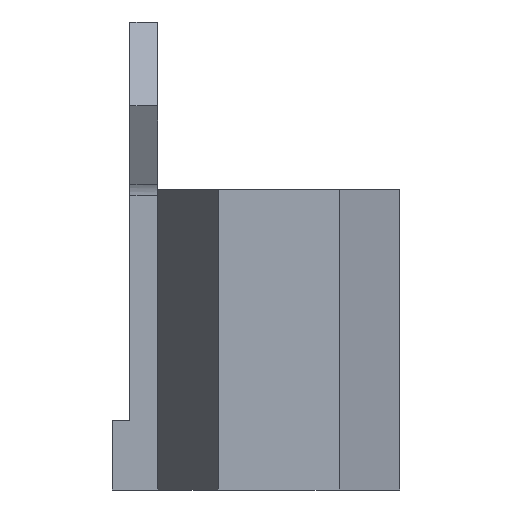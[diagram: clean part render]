
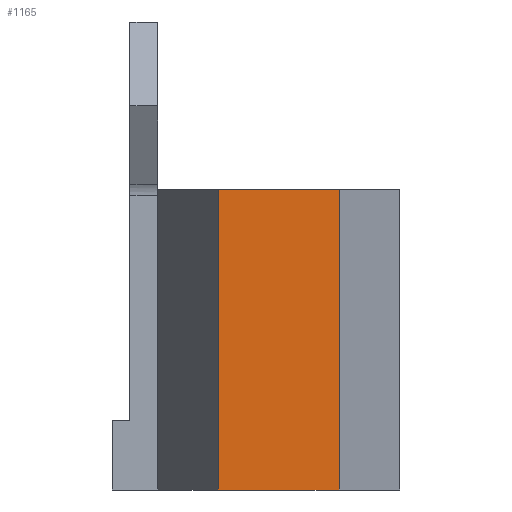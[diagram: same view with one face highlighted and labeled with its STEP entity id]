
A CAD part, left-side view. The second image highlights one B-rep face of the part: STEP entity #1165.
In plain terms, the highlighted planar face has unit normal (-1, 0, 0).
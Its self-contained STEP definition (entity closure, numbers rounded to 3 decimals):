
#91=FACE_OUTER_BOUND('',#160,.T.);
#160=EDGE_LOOP('',(#973,#974,#975,#976));
#218=LINE('',#1682,#363);
#283=LINE('',#1830,#428);
#303=LINE('',#1869,#448);
#304=LINE('',#1871,#449);
#363=VECTOR('',#1359,10.);
#428=VECTOR('',#1462,10.);
#448=VECTOR('',#1520,10.);
#449=VECTOR('',#1523,10.);
#509=VERTEX_POINT('',#1679);
#510=VERTEX_POINT('',#1681);
#573=VERTEX_POINT('',#1827);
#574=VERTEX_POINT('',#1829);
#627=EDGE_CURVE('',#510,#509,#218,.T.);
#699=EDGE_CURVE('',#573,#574,#283,.T.);
#719=EDGE_CURVE('',#509,#574,#303,.T.);
#720=EDGE_CURVE('',#510,#573,#304,.T.);
#973=ORIENTED_EDGE('',*,*,#627,.T.);
#974=ORIENTED_EDGE('',*,*,#719,.T.);
#975=ORIENTED_EDGE('',*,*,#699,.F.);
#976=ORIENTED_EDGE('',*,*,#720,.F.);
#1103=PLANE('',#1259);
#1165=ADVANCED_FACE('',(#91),#1103,.T.);
#1259=AXIS2_PLACEMENT_3D('',#1870,#1521,#1522);
#1359=DIRECTION('',(0.,1.,0.));
#1462=DIRECTION('',(0.,1.,0.));
#1520=DIRECTION('',(0.,0.,-1.));
#1521=DIRECTION('center_axis',(-1.,0.,0.));
#1522=DIRECTION('ref_axis',(0.,1.,0.));
#1523=DIRECTION('',(0.,0.,-1.));
#1679=CARTESIAN_POINT('',(-22.247,3.607,-114.069));
#1681=CARTESIAN_POINT('',(-22.247,-13.714,-114.069));
#1682=CARTESIAN_POINT('',(-22.247,-13.714,-114.069));
#1827=CARTESIAN_POINT('',(-22.247,-13.714,-157.069));
#1829=CARTESIAN_POINT('',(-22.247,3.607,-157.069));
#1830=CARTESIAN_POINT('',(-22.247,-13.714,-157.069));
#1869=CARTESIAN_POINT('',(-22.247,3.607,-114.069));
#1870=CARTESIAN_POINT('Origin',(-22.247,-13.714,-114.069));
#1871=CARTESIAN_POINT('',(-22.247,-13.714,-114.069));
